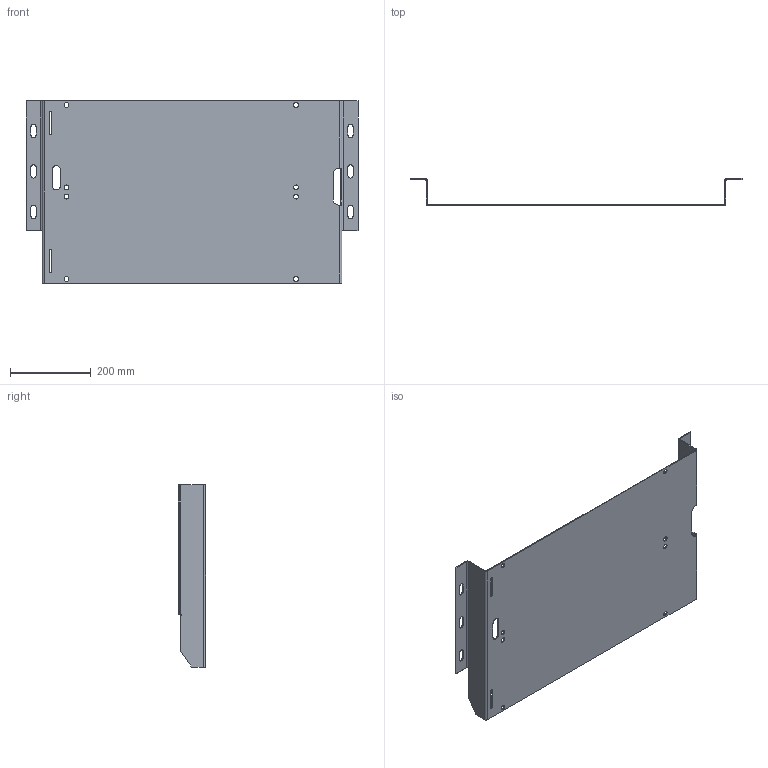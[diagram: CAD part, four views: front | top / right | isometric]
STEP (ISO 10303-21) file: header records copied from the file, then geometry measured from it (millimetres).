
FILE_DESCRIPTION (( 'STEP AP214' ), '1' );
FILE_NAME ('Blech 5.STEP', '2026-07-21T08:34:47', ( '' ), ( '' ), 'SwSTEP 2.0', 'SolidWorks 2023', '' );
FILE_SCHEMA (( 'AUTOMOTIVE_DESIGN' ));
Length unit declared in the file: millimetre
Products named in the file (1): Blech 5
Bounding box: 820 x 66.7 x 450 mm (x, y, z)
Volume: 1000163.7 mm3; surface area: 810677.3 mm2
Topology: 1 solids, 1 shells, 122 faces, 334 edges, 212 vertices
Faces by surface type: plane 65, cylinder 57
Entity records: 3953 total; most frequent: DIRECTION 692, CARTESIAN_POINT 675, ORIENTED_EDGE 668, EDGE_CURVE 334, AXIS2_PLACEMENT_3D 237, LINE 218, VECTOR 218, VERTEX_POINT 212
